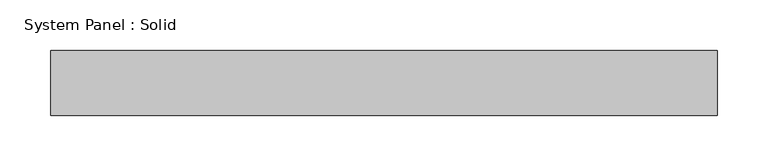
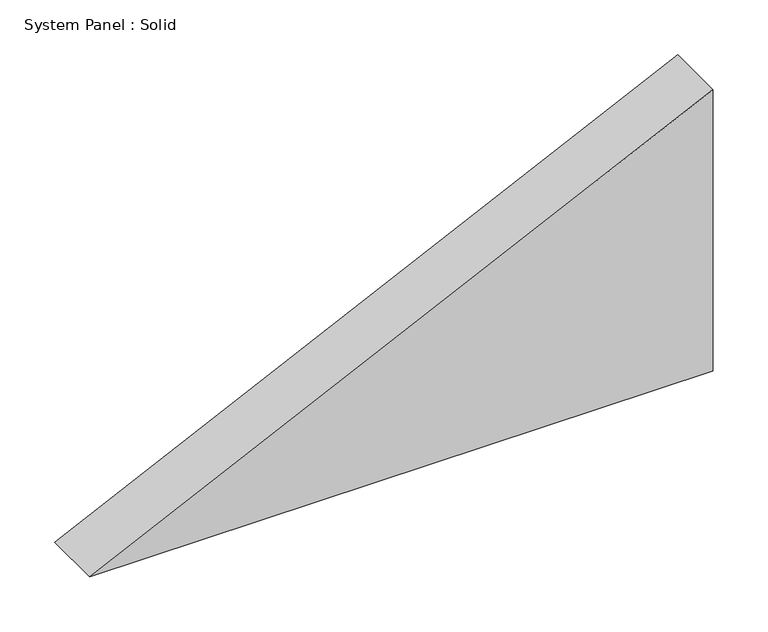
"""IFC4 building model written with IfcOpenShell, lengths in millimetres: plate geometry, System Panel : Solid."""

from ifc_helpers import new_model, si_unit, frame, origin, place, context, project, spatial, polyline, outline, extrude, source, transform, mapped, element, save


def system_panel_solid_25f436c3(model_context):
    return source(origin(), model_context, "Body", "SweptSolid", [
        extrude(outline(polyline([(0.0, -327.2839136), (0.0, 327.2839136), (312.5875298, 327.2839136), (0.0, -327.2839136)])), frame((0.0, -19.05, 0.0), z_axis=(0.0, 1.0, 0.0), x_axis=(0.0, 0.0, 1.0)), (0.0, 0.0, 1.0), 63.5),
    ])


if __name__ == "__main__":
    model = new_model("IFC4")
    model_context = context("Model", 3, world=origin())
    ifc_project = project(units=[si_unit("LENGTHUNIT", "METRE", prefix="MILLI")], contexts=[model_context])
    site = spatial("IfcSite", under=ifc_project)
    building = spatial("IfcBuilding", under=site)
    placement = place(None, origin())
    system_panel_solid_shape = system_panel_solid_25f436c3(model_context)
    element("IfcPlate", 1, ObjectType="System Panel : Solid", at=placement, inside=building, context=model_context, shape_type="MappedRepresentation", body=[
        mapped(system_panel_solid_shape, transform((0.0, 0.0, 0.0), x_axis=(1.0, 0.0, 0.0), y_axis=(0.0, 1.0, 0.0), z_axis=(0.0, 0.0, 1.0))),
    ])
    save(model, "model.ifc")
